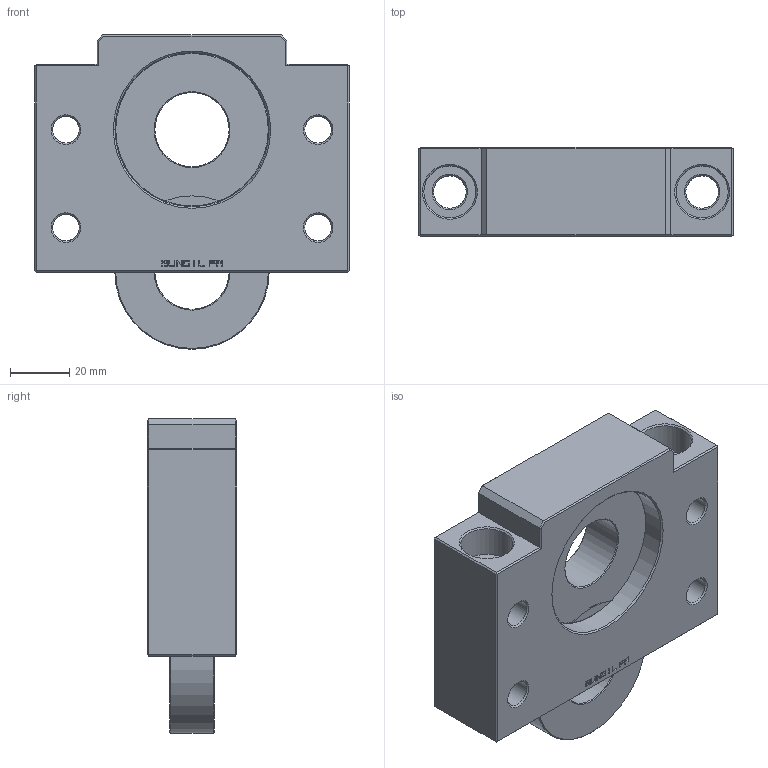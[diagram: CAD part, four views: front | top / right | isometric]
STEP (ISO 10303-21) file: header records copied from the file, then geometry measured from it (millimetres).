
FILE_DESCRIPTION( ( 'Unknown' ), '1' );
FILE_NAME( 'D:/3D/憮んお嶸棉/20060119/SBF TYPE/SBF25/SBF25(ASSM).stp', 'Unknown', ( 'Unknown' ), ( 'Unknown' ), 'XStep 1.0', 'Unknown', ' ' );
FILE_SCHEMA( ( 'CONFIG_CONTROL_DESIGN' ) );
Length unit declared in the file: millimetre
Products named in the file (3): Assem1; SBF25(housing); bearing(6205ZZ)
Bounding box: 106 x 30 x 106 mm (x, y, z)
Surface area: 80986.9 mm2
Topology: 4 solids, 4 shells, 782 faces, 2158 edges, 1424 vertices
Faces by surface type: plane 408, cylinder 334, cone 40
Full cylindrical faces by diameter (mm): 9 x16, 11 x4, 17.5 x4, 25 x2, 52 x4
Entity records: 12992 total; most frequent: CARTESIAN_POINT 2714, DIRECTION 2160, ORIENTED_EDGE 2068, EDGE_CURVE 1034, AXIS2_PLACEMENT_3D 740, VERTEX_POINT 702, LINE 680, VECTOR 680
